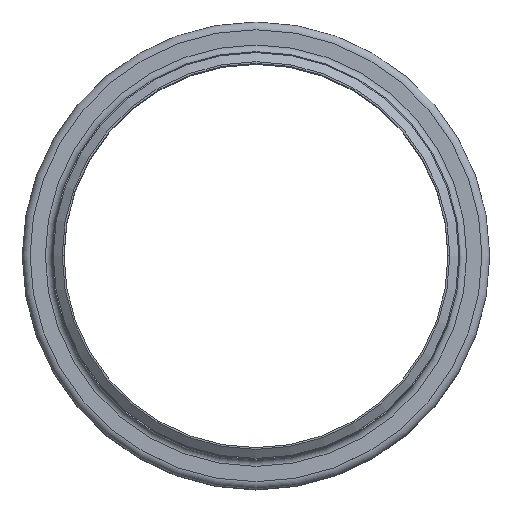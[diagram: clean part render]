
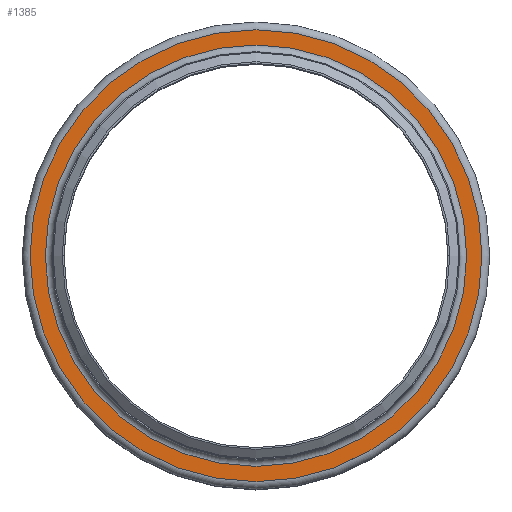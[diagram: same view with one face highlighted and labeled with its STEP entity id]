
A CAD part, top view. The second image highlights one B-rep face of the part: STEP entity #1385.
In plain terms, the highlighted planar face has unit normal (0, 0, 1).
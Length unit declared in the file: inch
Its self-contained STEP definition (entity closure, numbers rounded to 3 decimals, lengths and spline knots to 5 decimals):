
#155=FACE_BOUND('',#416,.T.);
#256=FACE_OUTER_BOUND('',#415,.T.);
#415=EDGE_LOOP('',(#1168));
#416=EDGE_LOOP('',(#1169));
#584=CIRCLE('',#1684,7.268);
#585=CIRCLE('',#1686,7.7945);
#703=VERTEX_POINT('',#2631);
#704=VERTEX_POINT('',#2635);
#862=EDGE_CURVE('',#703,#703,#584,.T.);
#863=EDGE_CURVE('',#704,#704,#585,.T.);
#1168=ORIENTED_EDGE('',*,*,#863,.F.);
#1169=ORIENTED_EDGE('',*,*,#862,.T.);
#1284=PLANE('',#1685);
#1385=ADVANCED_FACE('',(#256,#155),#1284,.T.);
#1684=AXIS2_PLACEMENT_3D('',#2633,#2197,#2198);
#1685=AXIS2_PLACEMENT_3D('',#2634,#2199,#2200);
#1686=AXIS2_PLACEMENT_3D('',#2636,#2201,#2202);
#2197=DIRECTION('center_axis',(0.,0.,-1.));
#2198=DIRECTION('ref_axis',(1.,0.,0.));
#2199=DIRECTION('center_axis',(0.,0.,1.));
#2200=DIRECTION('ref_axis',(1.,0.,0.));
#2201=DIRECTION('center_axis',(0.,0.,-1.));
#2202=DIRECTION('ref_axis',(1.,0.,0.));
#2631=CARTESIAN_POINT('',(7.268,0.,-0.232));
#2633=CARTESIAN_POINT('Origin',(0.,0.,-0.232));
#2634=CARTESIAN_POINT('Origin',(0.,7.7945,-0.232));
#2635=CARTESIAN_POINT('',(7.7945,0.,-0.232));
#2636=CARTESIAN_POINT('Origin',(0.,0.,-0.232));
